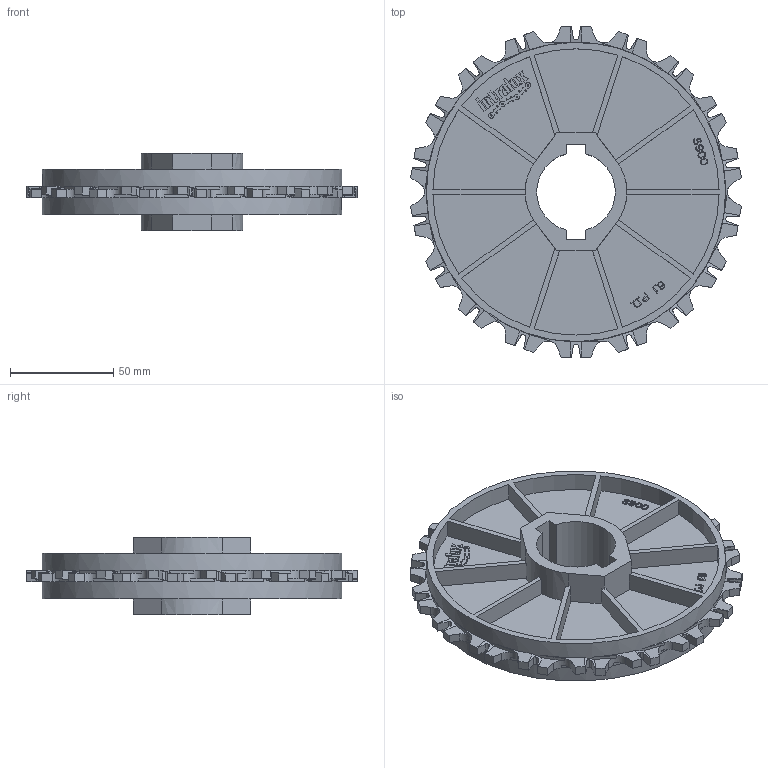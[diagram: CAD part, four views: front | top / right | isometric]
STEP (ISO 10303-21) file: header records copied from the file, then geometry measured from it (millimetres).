
FILE_DESCRIPTION((''),'2;1');
FILE_NAME('S900_SPROCKET_61X1-1_4_PILOT','2008-12-12T',('jmumphre'),(''),'PRO/ENGINEER BY PARAMETRIC TECHNOLOGY CORPORATION, 2008150','PRO/ENGINEER BY PARAMETRIC TECHNOLOGY CORPORATION, 2008150','');
FILE_SCHEMA(('CONFIG_CONTROL_DESIGN'));
Length unit declared in the file: inch
Products named in the file (1): S900_SPROCKET_61X1-1_4_PILOT
Bounding box: 160.28 x 160.22 x 37.59 mm (x, y, z)
Volume: 154178.6 mm3; surface area: 79503.5 mm2
Topology: 1 solids, 1 shells, 1005 faces, 2904 edges, 1936 vertices
Faces by surface type: plane 832, cylinder 173
Entity records: 32815 total; most frequent: CARTESIAN_POINT 6152, ORIENTED_EDGE 5808, DIRECTION 5168, EDGE_CURVE 2904, VECTOR 2434, LINE 2434, VERTEX_POINT 1936, AXIS2_PLACEMENT_3D 1367
